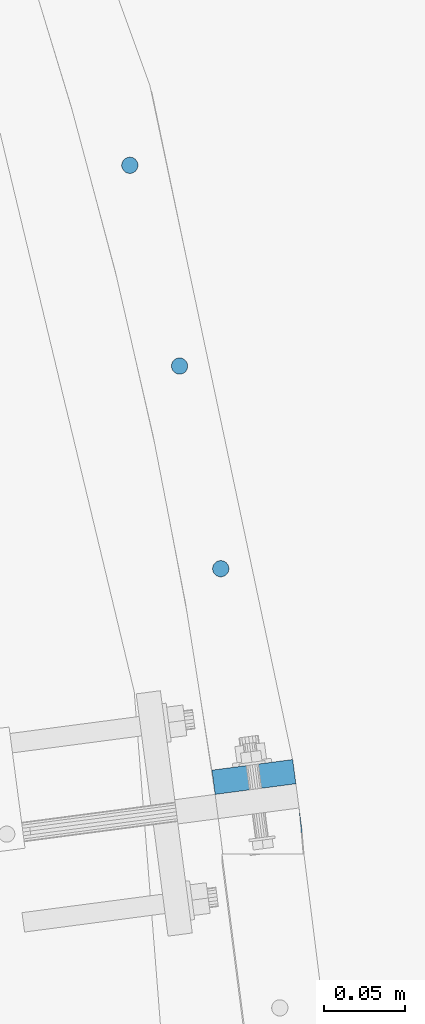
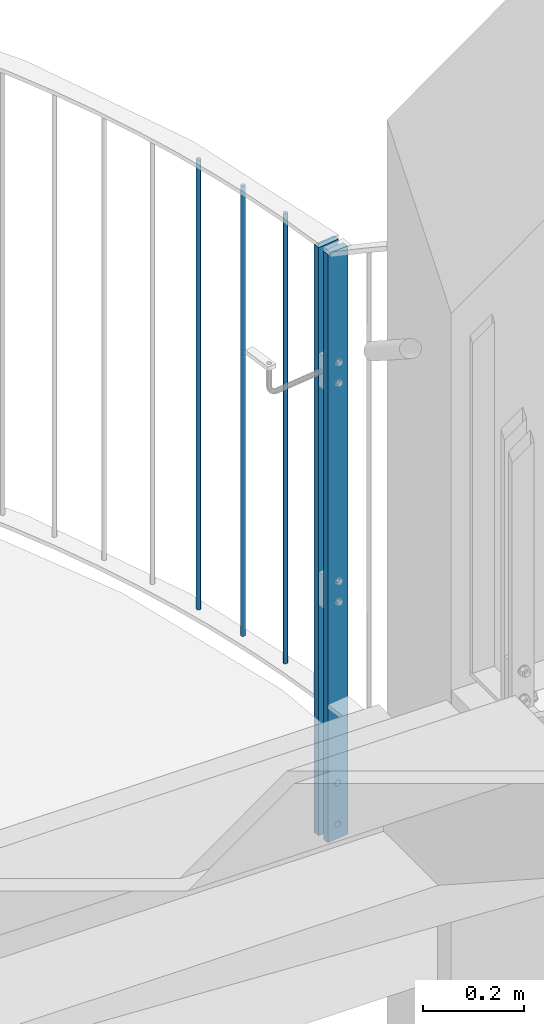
# One storey, part 90 of 296: 5 columns, 12 openings.
"""IFC2X3 building model written with IfcOpenShell, lengths in millimetres."""

from ifc_helpers import new_model, entity, si_unit, converted_unit, frame, frame_2d, origin, origin_with_axes, origin_2d, place, context, project, spatial, rectangle, circle, extrude, material, element, save


model = new_model("IFC2X3")

# Units and contexts
model_context = context("Model", 3, precision=1e-09, world=origin_with_axes())
ifc_project = project(units=[si_unit("LENGTHUNIT", "METRE", prefix="MILLI"), si_unit("AREAUNIT", "SQUARE_METRE"), si_unit("VOLUMEUNIT", "CUBIC_METRE"), converted_unit("PLANEANGLEUNIT", "DEGREE", entity("IfcPlaneAngleMeasure", 0.01745329), si_unit("PLANEANGLEUNIT", "RADIAN"), dimensions=[0, 0, 0, 0, 0, 0, 0])], contexts=[model_context])

# Site, building, storey
site_placement = place(None, origin_with_axes())
site = spatial("IfcSite", under=ifc_project, at=site_placement, Name="TZD-S?d | Treppenhausgel?nder", CompositionType="ELEMENT")
building_placement = place(site_placement, origin_with_axes())
building = spatial("IfcBuilding", under=site, at=building_placement, Name="Struktur 1", CompositionType="ELEMENT")
storey_placement = place(building_placement, origin_with_axes())
storey = spatial("IfcBuildingStorey", under=building, at=storey_placement, Name="Default Storey", CompositionType="ELEMENT", Elevation=0.0)

# Columns
ifc_material = material(Name="S235JR")
for number, where, z_axis, x_axis in (
    (1, (5867.115279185, 432.965487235, 2450.0), (0.0, 0.0, -1.0), (0.0, 1.0, 0.0)),
    (2, (5841.837700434, 557.381027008, 2450.0), (0.0, 0.0, -1.0), (0.0, 1.0, 0.0)),
    (3, (5811.30133172, 680.611350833, 2450.0), (0.0, 0.0, -1.0), (0.0, 1.0, 0.0)),
):
    element("IfcColumn", number, at=place(None, frame(where, z_axis=z_axis, x_axis=x_axis)), inside=storey, material=ifc_material, Name="-", ObjectType="-", context=model_context, shape_type="SweptSolid", body=[
        extrude(circle(Radius=5.0, at=origin_2d()), origin(), (0.0, 0.0, -1.0), 1090.0),
    ])

# Column, openings
column_1_placement = place(None, frame((5891.378028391, 275.401641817, 2115.001), z_axis=(0.0, 0.0, -1.0), x_axis=(-0.130526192, 0.991444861, 0.0)))
column_1 = element("IfcColumn", 4, at=column_1_placement, inside=storey, material=ifc_material, Name="-", ObjectType="-", context=model_context, shape_type="SweptSolid", body=[
    extrude(rectangle(XDim=15.0, YDim=50.0, at=origin_2d()), origin(), (0.0, 0.0, -1.0), 1424.999),
])
opening_1_placement = place(column_1_placement, frame((8.0, 7.001, -135.0), z_axis=(1.0, 0.0, 0.0), x_axis=(0.0, 1.0, 0.0)))
element("IfcOpeningElement", 5, at=opening_1_placement, cuts=column_1, ObjectType="Opening", context=model_context, shape_type="SweptSolid", body=[
    extrude(circle(Radius=7.001, at=frame_2d((-7.001, 0.0), x_axis=(1.0, 0.0))), origin(), (0.0, 0.0, -1.0), 16.0),
])
opening_2_placement = place(column_1_placement, frame((8.0, 7.001, -35.0), z_axis=(1.0, 0.0, 0.0), x_axis=(0.0, 1.0, 0.0)))
element("IfcOpeningElement", 6, at=opening_2_placement, cuts=column_1, ObjectType="Opening", context=model_context, shape_type="SweptSolid", body=[
    extrude(circle(Radius=7.001, at=frame_2d((-7.001, 0.0), x_axis=(1.0, 0.0))), origin(), (0.0, 0.0, -1.0), 16.0),
])
opening_3_placement = place(column_1_placement, frame((8.0, 5.001, -1154.999999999), z_axis=(1.0, 0.0, 0.0), x_axis=(0.0, 1.0, 0.0)))
element("IfcOpeningElement", 7, at=opening_3_placement, cuts=column_1, ObjectType="Opening", context=model_context, shape_type="SweptSolid", body=[
    extrude(circle(Radius=5.001, at=frame_2d((-5.001, 0.0), x_axis=(1.0, 0.0))), origin(), (0.0, 0.0, -1.0), 16.0),
])
opening_4_placement = place(column_1_placement, frame((8.0, 5.001, -1104.999999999), z_axis=(1.0, 0.0, 0.0), x_axis=(0.0, 1.0, 0.0)))
element("IfcOpeningElement", 8, at=opening_4_placement, cuts=column_1, ObjectType="Opening", context=model_context, shape_type="SweptSolid", body=[
    extrude(circle(Radius=5.001, at=frame_2d((-5.001, 0.0), x_axis=(1.0, 0.0))), origin(), (0.0, 0.0, -1.0), 16.0),
])
opening_5_placement = place(column_1_placement, frame((8.0, 5.001, -624.999999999), z_axis=(1.0, 0.0, 0.0), x_axis=(0.0, 1.0, 0.0)))
element("IfcOpeningElement", 9, at=opening_5_placement, cuts=column_1, ObjectType="Opening", context=model_context, shape_type="SweptSolid", body=[
    extrude(circle(Radius=5.001, at=frame_2d((-5.001, 0.0), x_axis=(1.0, 0.0))), origin(), (0.0, 0.0, -1.0), 16.0),
])
opening_6_placement = place(column_1_placement, frame((8.0, 5.001, -574.999999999), z_axis=(1.0, 0.0, 0.0), x_axis=(0.0, 1.0, 0.0)))
element("IfcOpeningElement", 10, at=opening_6_placement, cuts=column_1, ObjectType="Opening", context=model_context, shape_type="SweptSolid", body=[
    extrude(circle(Radius=5.001, at=frame_2d((-5.001, 0.0), x_axis=(1.0, 0.0))), origin(), (0.0, 0.0, -1.0), 16.0),
])

column_2_placement = place(None, frame((5887.462242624, 305.144987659, 2115.001), z_axis=(0.0, 0.0, 1.0), x_axis=(0.130526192, -0.991444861, 0.0)))
column_2 = element("IfcColumn", 11, at=column_2_placement, inside=storey, material=ifc_material, Name="-", ObjectType="-", context=model_context, shape_type="SweptSolid", body=[
    extrude(rectangle(XDim=15.0, YDim=50.0, at=origin_2d()), origin(), (0.0, 0.0, 1.0), 1424.999),
])
opening_7_placement = place(column_2_placement, frame((-8.0, 5.001, 624.999999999), z_axis=(-1.0, 0.0, 0.0), x_axis=(0.0, -1.0, 0.0)))
element("IfcOpeningElement", 12, at=opening_7_placement, cuts=column_2, ObjectType="Opening", context=model_context, shape_type="SweptSolid", body=[
    extrude(circle(Radius=5.001, at=frame_2d((5.001, 0.0), x_axis=(1.0, 0.0))), origin(), (0.0, 0.0, -1.0), 16.0),
])
opening_8_placement = place(column_2_placement, frame((-8.0, 5.001, 574.999999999), z_axis=(-1.0, 0.0, 0.0), x_axis=(0.0, -1.0, 0.0)))
element("IfcOpeningElement", 13, at=opening_8_placement, cuts=column_2, ObjectType="Opening", context=model_context, shape_type="SweptSolid", body=[
    extrude(circle(Radius=5.001, at=frame_2d((5.001, 0.0), x_axis=(1.0, 0.0))), origin(), (0.0, 0.0, -1.0), 16.0),
])
opening_9_placement = place(column_2_placement, frame((-8.0, 7.001, 135.0), z_axis=(-1.0, 0.0, 0.0), x_axis=(0.0, -1.0, 0.0)))
element("IfcOpeningElement", 14, at=opening_9_placement, cuts=column_2, ObjectType="Opening", context=model_context, shape_type="SweptSolid", body=[
    extrude(circle(Radius=7.001, at=frame_2d((7.001, 0.0), x_axis=(1.0, 0.0))), origin(), (0.0, 0.0, -1.0), 16.0),
])
opening_10_placement = place(column_2_placement, frame((-8.0, 7.001, 35.0), z_axis=(-1.0, 0.0, 0.0), x_axis=(0.0, -1.0, 0.0)))
element("IfcOpeningElement", 15, at=opening_10_placement, cuts=column_2, ObjectType="Opening", context=model_context, shape_type="SweptSolid", body=[
    extrude(circle(Radius=7.001, at=frame_2d((7.001, 0.0), x_axis=(1.0, 0.0))), origin(), (0.0, 0.0, -1.0), 16.0),
])
opening_11_placement = place(column_2_placement, frame((-8.0, 5.001, 1154.999999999), z_axis=(-1.0, 0.0, 0.0), x_axis=(0.0, -1.0, 0.0)))
element("IfcOpeningElement", 16, at=opening_11_placement, cuts=column_2, ObjectType="Opening", context=model_context, shape_type="SweptSolid", body=[
    extrude(circle(Radius=5.001, at=frame_2d((5.001, 0.0), x_axis=(1.0, 0.0))), origin(), (0.0, 0.0, -1.0), 16.0),
])
opening_12_placement = place(column_2_placement, frame((-8.0, 5.001, 1104.999999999), z_axis=(-1.0, 0.0, 0.0), x_axis=(0.0, -1.0, 0.0)))
element("IfcOpeningElement", 17, at=opening_12_placement, cuts=column_2, ObjectType="Opening", context=model_context, shape_type="SweptSolid", body=[
    extrude(circle(Radius=5.001, at=frame_2d((5.001, 0.0), x_axis=(1.0, 0.0))), origin(), (0.0, 0.0, -1.0), 16.0),
])

save(model, "model.ifc")
